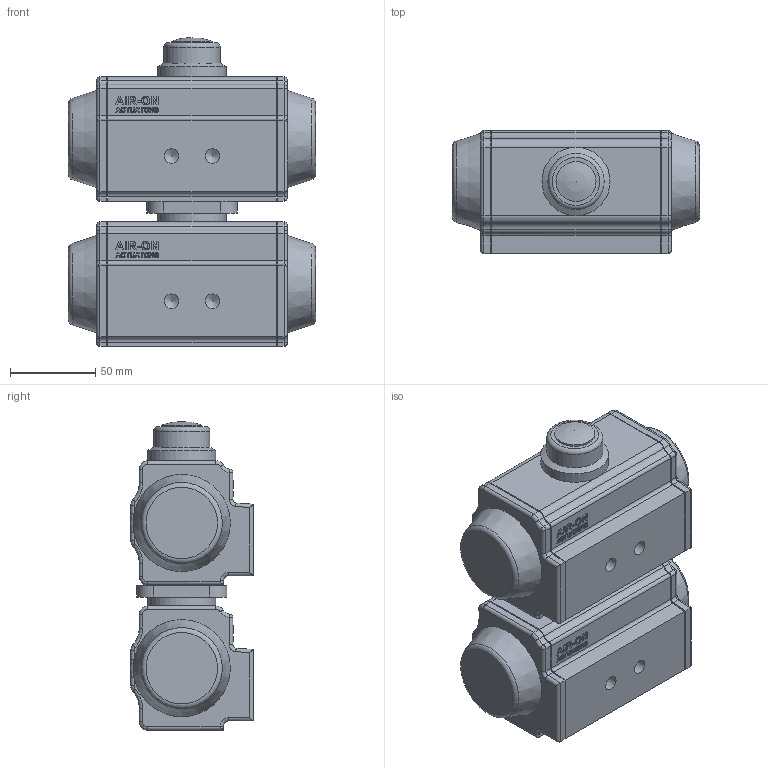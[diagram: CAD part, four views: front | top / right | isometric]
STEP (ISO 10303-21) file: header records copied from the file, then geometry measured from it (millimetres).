
FILE_DESCRIPTION( ( 'Unknown' ), '1' );
FILE_NAME( 'J:/Muud/ROOTSI BPS 3D vidinad/Kuulkraanid/Roostevaba kuulkraanid/Ball valve BPS 2411/Ball valve with pneumatic actuator BPS/STEP formaat/BPS 2411025P ball valve DN25.stp', 'Unknown', ( 'Unknown' ), ( 'Unknown' ), 'PSStep 10.1', 'Unknown', ' ' );
FILE_SCHEMA( ( 'AUTOMOTIVE_DESIGN { 1 0 10303 214 1 1 1 1 }' ) );
Length unit declared in the file: millimetre
Products named in the file (5): Assem1; BPS 2411025 ball valve DN25; BPS 8300050DA-SR pneumatic actuator
Bounding box: 145 x 72 x 181.2 mm (x, y, z)
Volume: 1430121.9 mm3; surface area: 190260.7 mm2
Topology: 8 solids, 8 shells, 944 faces, 2364 edges, 1536 vertices
Faces by surface type: plane 354, cylinder 216, extrusion 202, bspline 88, torus 50, cone 28, sphere 6
Full cylindrical faces by diameter (mm): 4.134 x8, 4.917 x8, 8.566 x4, 23.5 x2, 25 x2, 27 x2, 30.291 x4, 33 x2, 35 x2, 40 x2, 50 x2
Entity records: 22467 total; most frequent: CARTESIAN_POINT 8443, ORIENTED_EDGE 2212, DIRECTION 1650, EDGE_CURVE 1106, VERTEX_POINT 751, EDGE_LOOP 581, VECTOR 576, AXIS2_PLACEMENT_3D 537
